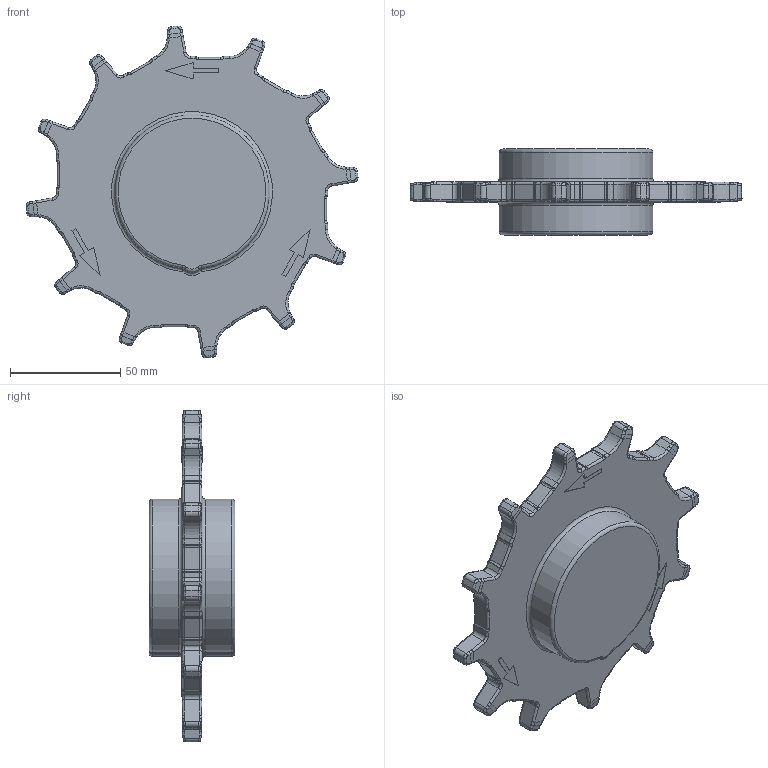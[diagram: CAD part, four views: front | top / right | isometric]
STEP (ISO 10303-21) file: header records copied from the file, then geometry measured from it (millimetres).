
FILE_DESCRIPTION((''),'2;1');
FILE_NAME('82Z12','2011-12-12T',('mth'),(''),'PRO/ENGINEER BY PARAMETRIC TECHNOLOGY CORPORATION, 2010280','PRO/ENGINEER BY PARAMETRIC TECHNOLOGY CORPORATION, 2010280','');
FILE_SCHEMA(('CONFIG_CONTROL_DESIGN','SHAPE_APPEARANCE_LAYERS_GROUPS'));
Products named in the file (1): 82Z12
Bounding box: 150.63 x 39 x 150.63 mm (x, y, z)
Volume: 236922.8 mm3; surface area: 38234.6 mm2
Topology: 1 solids, 1 shells, 1313 faces, 3307 edges, 2038 vertices
Faces by surface type: plane 691, cylinder 246, bspline 192, torus 156, cone 24, sphere 4
Entity records: 47034 total; most frequent: CARTESIAN_POINT 16621, ORIENTED_EDGE 6614, DIRECTION 5901, EDGE_CURVE 3307, VECTOR 2187, LINE 2187, VERTEX_POINT 2038, AXIS2_PLACEMENT_3D 1857
